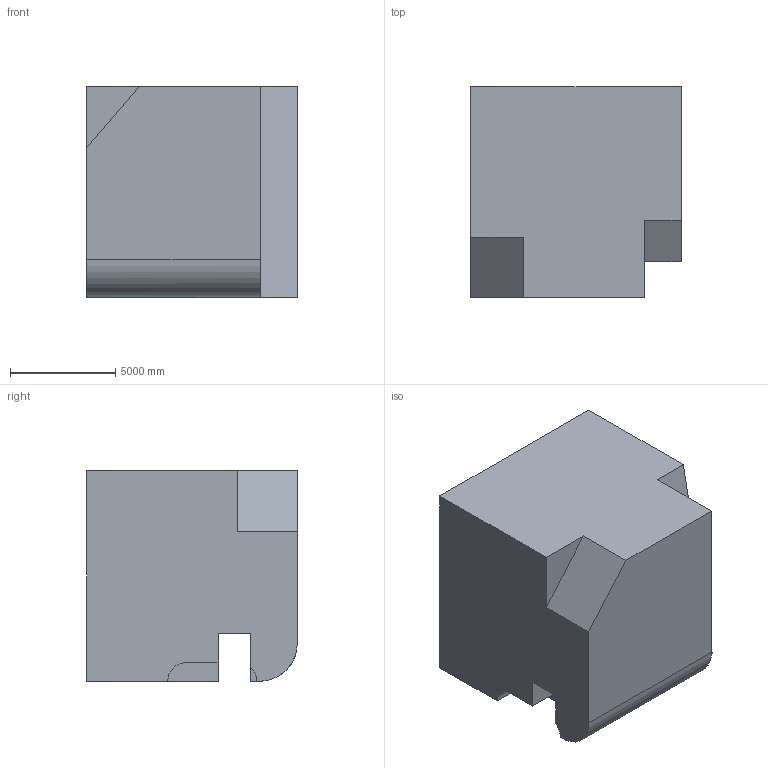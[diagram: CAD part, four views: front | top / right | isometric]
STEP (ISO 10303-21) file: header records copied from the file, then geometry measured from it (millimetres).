
FILE_DESCRIPTION (( 'STEP AP203' ), '1' );
FILE_NAME ('455.STEP', '2022-07-29T11:21:05', ( 'user' ), ( '' ), 'SwSTEP 2.0', 'SolidWorks 2021', '' );
FILE_SCHEMA (( 'CONFIG_CONTROL_DESIGN' ));
Length unit declared in the file: centimetre
Products named in the file (1): 455
Bounding box: 10000 x 10000 x 10000 mm (x, y, z)
Volume: 897428457836.9 mm3; surface area: 616166182.7 mm2
Topology: 1 solids, 1 shells, 20 faces, 54 edges, 36 vertices
Faces by surface type: plane 17, cylinder 3
Entity records: 702 total; most frequent: CARTESIAN_POINT 111, ORIENTED_EDGE 108, DIRECTION 103, EDGE_CURVE 54, VECTOR 47, LINE 47, VERTEX_POINT 36, AXIS2_PLACEMENT_3D 28
